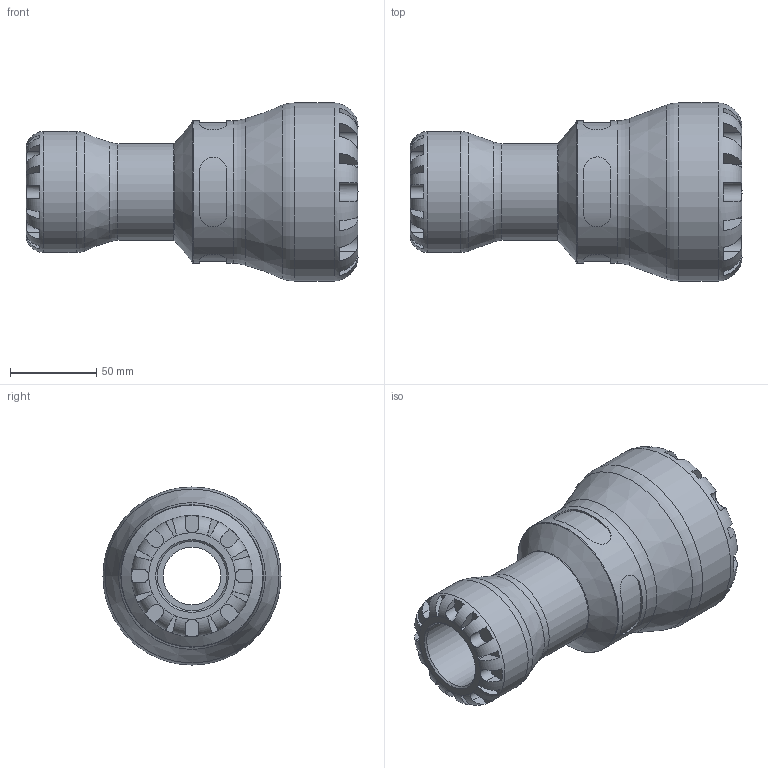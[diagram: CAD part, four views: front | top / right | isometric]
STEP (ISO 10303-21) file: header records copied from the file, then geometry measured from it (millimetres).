
FILE_DESCRIPTION(/* description */ ('PLASSON G-PLASS REDUCING COUPLING 63 x 40'),/* implementation_level */ '2;1');
FILE_NAME(/* name */ 'C:\Dropbox\KIMPROJECTS-Inventor 2019\99-16-3568-Processing\S1\151100\stp\151100063040.stp',/* time_stamp */ '2023-10-17T19:45:33+03:00',/* author */ ('KIM'),/* organization */ (''),/* preprocessor_version */ 'ST-DEVELOPER v17.2',/* originating_system */ 'Autodesk Inventor 2019',/* authorisation */ '');
FILE_SCHEMA (('AUTOMOTIVE_DESIGN { 1 0 10303 214 3 1 1 }'));
Length unit declared in the file: millimetre
Products named in the file (1): 151100063040
Bounding box: 192 x 103 x 103 mm (x, y, z)
Volume: 519535.6 mm3; surface area: 92879.6 mm2
Topology: 1 solids, 1 shells, 172 faces, 465 edges, 300 vertices
Faces by surface type: plane 108, cylinder 50, torus 8, cone 6
Full cylindrical faces by diameter (mm): 40 x1, 56 x1, 63 x1, 70 x1, 82.4 x1, 103 x1
Entity records: 6972 total; most frequent: CARTESIAN_POINT 2498, ORIENTED_EDGE 930, DIRECTION 895, EDGE_CURVE 465, AXIS2_PLACEMENT_3D 369, VERTEX_POINT 300, CIRCLE 196, EDGE_LOOP 179
